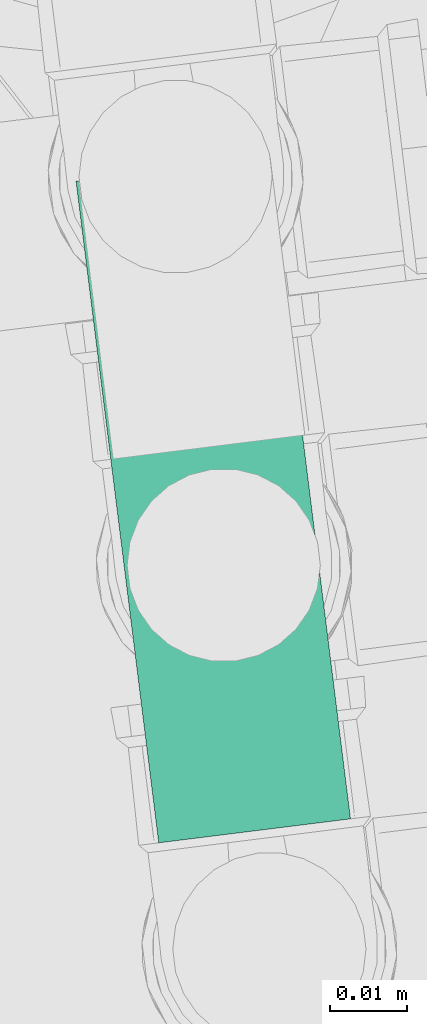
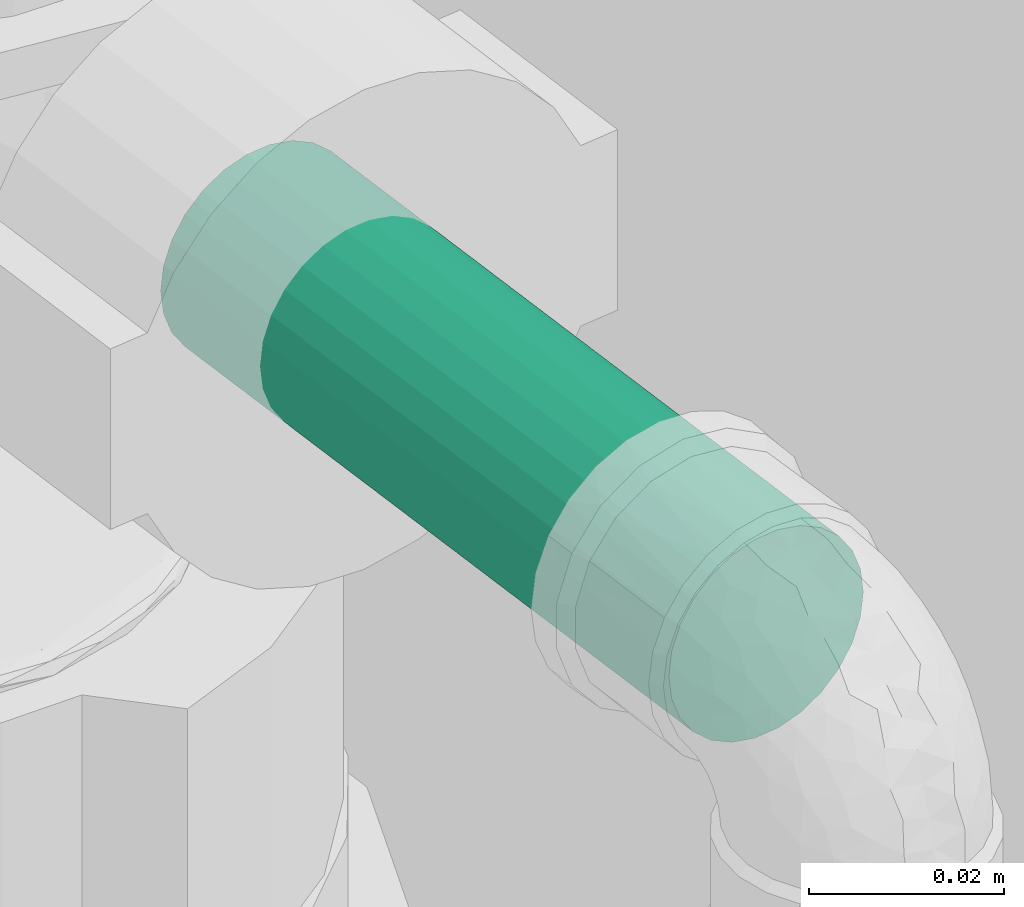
# One storey, part 84 of 97: 1 flow segment.
"""IFC2X3 building model written with IfcOpenShell, lengths in centimetres."""

from ifc_helpers import new_model, entity, si_unit, converted_unit, derived_unit, direction, frame, origin, origin_2d_with_axis, place, context, subcontext, project, spatial, circle, extrude, type_object, element, save


model = new_model("IFC2X3")

# Units and contexts
model_context = context("Model", 3, precision=0.001, world=origin(), true_north=direction((6.12303176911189e-17, 1.0)))
body_context = subcontext(model_context, "Body", "Model", "MODEL_VIEW")
ifc_project = project(units=[si_unit("LENGTHUNIT", "METRE", prefix="CENTI"), si_unit("AREAUNIT", "SQUARE_METRE"), si_unit("VOLUMEUNIT", "CUBIC_METRE"), converted_unit("PLANEANGLEUNIT", "DEGREE", entity("IfcRatioMeasure", 0.0174532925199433), si_unit("PLANEANGLEUNIT", "RADIAN"), dimensions=[0, 0, 0, 0, 0, 0, 0]), si_unit("MASSUNIT", "GRAM", prefix="KILO"), derived_unit("MASSDENSITYUNIT", [(si_unit("MASSUNIT", "GRAM", prefix="KILO"), 1), (si_unit("LENGTHUNIT", "METRE"), -3)]), derived_unit("MOMENTOFINERTIAUNIT", [(si_unit("LENGTHUNIT", "METRE"), 4)]), si_unit("TIMEUNIT", "SECOND"), si_unit("FREQUENCYUNIT", "HERTZ"), si_unit("THERMODYNAMICTEMPERATUREUNIT", "DEGREE_CELSIUS"), derived_unit("THERMALTRANSMITTANCEUNIT", [(si_unit("MASSUNIT", "GRAM", prefix="KILO"), 1), (si_unit("THERMODYNAMICTEMPERATUREUNIT", "KELVIN"), -1), (si_unit("TIMEUNIT", "SECOND"), -3)]), derived_unit("VOLUMETRICFLOWRATEUNIT", [(si_unit("LENGTHUNIT", "METRE"), 3), (si_unit("TIMEUNIT", "SECOND"), -1)]), si_unit("ELECTRICCURRENTUNIT", "AMPERE"), si_unit("ELECTRICVOLTAGEUNIT", "VOLT"), si_unit("POWERUNIT", "WATT"), si_unit("FORCEUNIT", "NEWTON", prefix="KILO"), si_unit("ILLUMINANCEUNIT", "LUX"), si_unit("LUMINOUSFLUXUNIT", "LUMEN"), si_unit("LUMINOUSINTENSITYUNIT", "CANDELA"), derived_unit("USERDEFINED", [(si_unit("MASSUNIT", "GRAM", prefix="KILO"), -1), (si_unit("LENGTHUNIT", "METRE"), -2), (si_unit("TIMEUNIT", "SECOND"), 3), (si_unit("LUMINOUSFLUXUNIT", "LUMEN"), 1)]), derived_unit("LINEARVELOCITYUNIT", [(si_unit("LENGTHUNIT", "METRE"), 1), (si_unit("TIMEUNIT", "SECOND"), -1)]), si_unit("PRESSUREUNIT", "PASCAL"), derived_unit("USERDEFINED", [(si_unit("LENGTHUNIT", "METRE"), -2), (si_unit("MASSUNIT", "GRAM", prefix="KILO"), 1), (si_unit("TIMEUNIT", "SECOND"), -2)]), derived_unit("LINEARFORCEUNIT", [(si_unit("MASSUNIT", "GRAM", prefix="KILO"), 1), (si_unit("LENGTHUNIT", "METRE"), 1), (si_unit("TIMEUNIT", "SECOND"), -2), (si_unit("LENGTHUNIT", "METRE"), -1)]), derived_unit("PLANARFORCEUNIT", [(si_unit("MASSUNIT", "GRAM", prefix="KILO"), 1), (si_unit("LENGTHUNIT", "METRE"), 1), (si_unit("TIMEUNIT", "SECOND"), -2), (si_unit("LENGTHUNIT", "METRE"), -2)])], contexts=[model_context])

# Site, building, storey
site_placement = place(None, origin())
site = spatial("IfcSite", under=ifc_project, at=site_placement, Name="Default", CompositionType="ELEMENT")
building_placement = place(site_placement, origin())
building = spatial("IfcBuilding", under=site, at=building_placement, Name="HIDROSSANITÁRIO", CompositionType="ELEMENT")
storey_placement = place(building_placement, frame((0.0, 0.0, -260.0)))
storey = spatial("IfcBuildingStorey", under=building, at=storey_placement, Name="TÉRREO-HID", CompositionType="ELEMENT", Elevation=-260.0)

# Flow segment
pipe_segment_type = type_object("IfcPipeSegmentType", Name="Tipos de tubos:Tubo Marrom - Água Fria - Soldável", PredefinedType="NOTDEFINED")
flow_segment_placement = place(storey_placement, origin())
element("IfcFlowSegment", 1, at=flow_segment_placement, inside=storey, type_object=pipe_segment_type, Name="Tipos de tubos:Tubo Marrom - Água Fria - Soldável", ObjectType="Tipos de tubos:Tubo Marrom - Água Fria - Soldável", context=body_context, shape_type="SweptSolid", body=[
    extrude(circle(Radius=1.25, at=origin_2d_with_axis()), frame((-2437.00506093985, 3214.70512341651, 31.0346769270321), z_axis=(-0.124024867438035, 0.992279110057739, 0.0), x_axis=(-0.992279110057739, -0.124024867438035, 0.0)), (0.0, 0.0, 1.0), 8.62696090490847),
])

save(model, "model.ifc")
